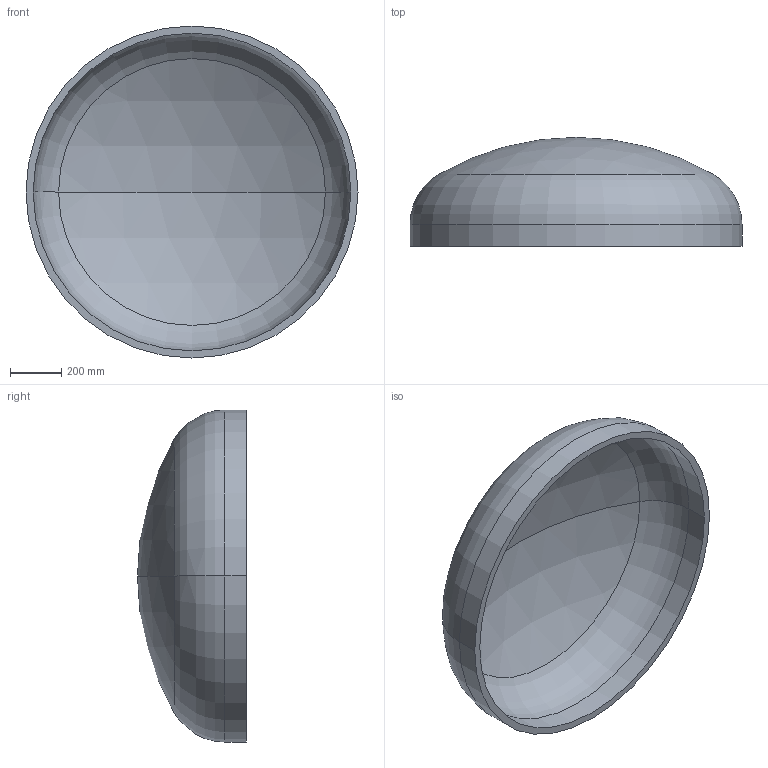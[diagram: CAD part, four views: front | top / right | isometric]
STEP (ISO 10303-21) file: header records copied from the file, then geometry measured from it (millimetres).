
FILE_DESCRIPTION (( 'STEP AP203' ), '1' );
FILE_NAME ('DIN 28013 Korbbogenform_-_Boden DIN 28013 - 1300 x 85 - I - s=28.step', '2016-07-01T09:47:41', ( '' ), ( '' ), 'SwSTEP 2.0', 'SolidWorks 2013', '' );
FILE_SCHEMA (( 'CONFIG_CONTROL_DESIGN' ));
Length unit declared in the file: millimetre
Products named in the file (1): DIN 28013 Korbbogenform_-_Boden DIN 28013 - 1300 x 85 - I - s=28
Bounding box: 1300 x 426.7 x 1300 mm (x, y, z)
Volume: 59536349.8 mm3; surface area: 4366128.1 mm2
Topology: 1 solids, 1 shells, 13 faces, 24 edges, 14 vertices
Faces by surface type: torus 4, cylinder 4, sphere 4, plane 1
Entity records: 407 total; most frequent: DIRECTION 72, CARTESIAN_POINT 52, ORIENTED_EDGE 48, AXIS2_PLACEMENT_3D 34, EDGE_CURVE 24, CIRCLE 20, VERTEX_POINT 14, EDGE_LOOP 14
